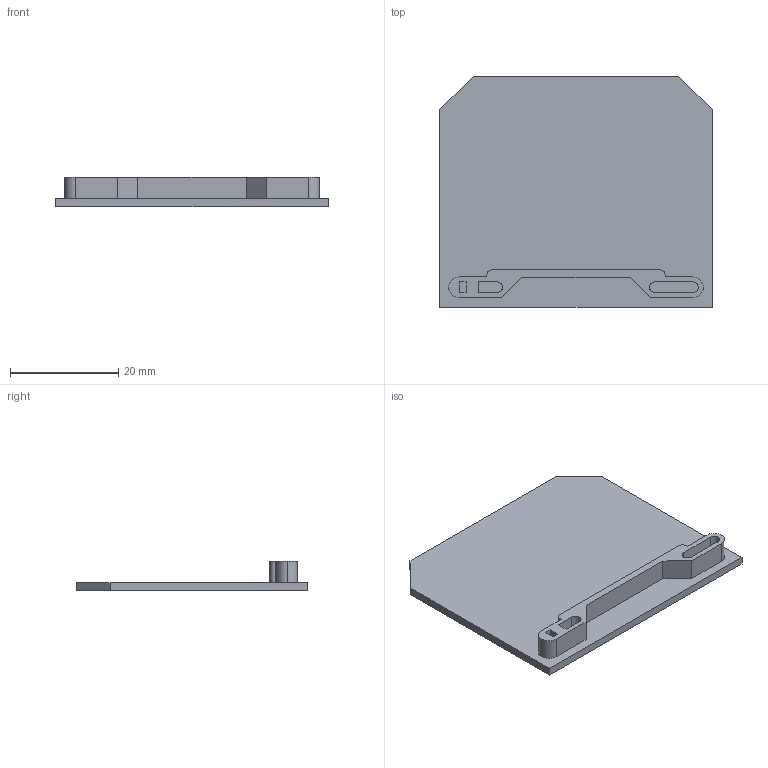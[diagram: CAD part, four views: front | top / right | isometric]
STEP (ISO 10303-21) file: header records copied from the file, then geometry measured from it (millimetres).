
FILE_DESCRIPTION (( 'STEP AP203' ), '1' );
FILE_NAME ('sak-16-35 Çàãëóøêà äëÿ JXB-16-35.STEP', '2017-05-06T09:14:12', ( '' ), ( '' ), 'SwSTEP 2.0', 'SolidWorks 2010', '' );
FILE_SCHEMA (( 'CONFIG_CONTROL_DESIGN' ));
Length unit declared in the file: millimetre
Products named in the file (1): sak-16-35 Çàãëóøêà äëÿ JXB-16-35
Bounding box: 50.3 x 42.6 x 5.5 mm (x, y, z)
Volume: 3564.6 mm3; surface area: 5045.5 mm2
Topology: 1 solids, 1 shells, 40 faces, 102 edges, 68 vertices
Faces by surface type: plane 31, cylinder 9
Entity records: 1281 total; most frequent: CARTESIAN_POINT 211, ORIENTED_EDGE 204, DIRECTION 202, EDGE_CURVE 102, VECTOR 84, LINE 84, VERTEX_POINT 68, AXIS2_PLACEMENT_3D 59
